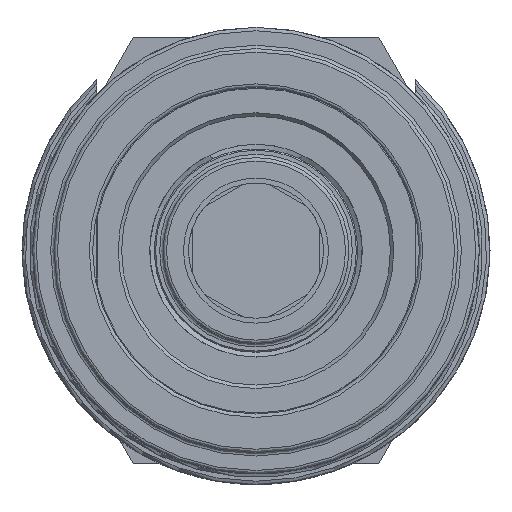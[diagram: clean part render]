
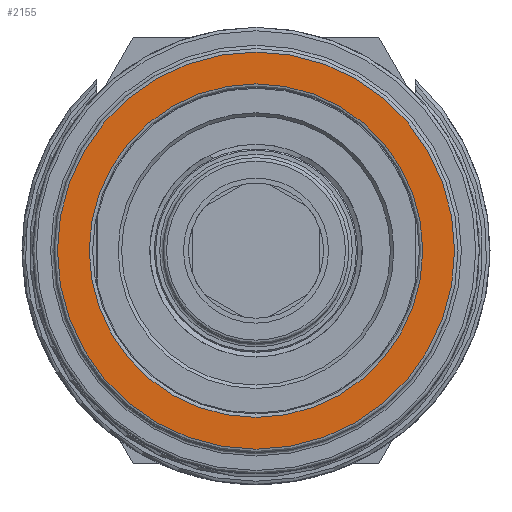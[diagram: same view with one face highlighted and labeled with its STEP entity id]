
A CAD part, front view. The second image highlights one B-rep face of the part: STEP entity #2155.
In plain terms, the highlighted planar face has unit normal (0, -1, 0).
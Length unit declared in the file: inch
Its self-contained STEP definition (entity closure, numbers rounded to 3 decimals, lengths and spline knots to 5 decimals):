
#46=FACE_BOUND('',#310,.T.);
#187=FACE_OUTER_BOUND('',#309,.T.);
#309=EDGE_LOOP('',(#1496,#1497));
#310=EDGE_LOOP('',(#1498,#1499));
#732=CIRCLE('',#2337,0.49);
#733=CIRCLE('',#2338,0.49);
#735=CIRCLE('',#2341,0.5835);
#736=CIRCLE('',#2342,0.5835);
#885=VERTEX_POINT('',#3398);
#886=VERTEX_POINT('',#3400);
#887=VERTEX_POINT('',#3405);
#888=VERTEX_POINT('',#3406);
#1124=EDGE_CURVE('',#885,#886,#732,.T.);
#1125=EDGE_CURVE('',#886,#885,#733,.T.);
#1127=EDGE_CURVE('',#887,#888,#735,.T.);
#1128=EDGE_CURVE('',#888,#887,#736,.T.);
#1496=ORIENTED_EDGE('',*,*,#1127,.F.);
#1497=ORIENTED_EDGE('',*,*,#1128,.F.);
#1498=ORIENTED_EDGE('',*,*,#1125,.F.);
#1499=ORIENTED_EDGE('',*,*,#1124,.F.);
#2083=PLANE('',#2340);
#2155=ADVANCED_FACE('',(#187,#46),#2083,.T.);
#2337=AXIS2_PLACEMENT_3D('',#3401,#2666,#2667);
#2338=AXIS2_PLACEMENT_3D('',#3402,#2668,#2669);
#2340=AXIS2_PLACEMENT_3D('',#3404,#2672,#2673);
#2341=AXIS2_PLACEMENT_3D('',#3407,#2674,#2675);
#2342=AXIS2_PLACEMENT_3D('',#3408,#2676,#2677);
#2666=DIRECTION('center_axis',(0.,-1.,0.));
#2667=DIRECTION('ref_axis',(0.,0.,1.));
#2668=DIRECTION('center_axis',(0.,-1.,0.));
#2669=DIRECTION('ref_axis',(0.,0.,1.));
#2672=DIRECTION('center_axis',(0.,-1.,0.));
#2673=DIRECTION('ref_axis',(0.,0.,-1.));
#2674=DIRECTION('center_axis',(0.,1.,0.));
#2675=DIRECTION('ref_axis',(0.,0.,1.));
#2676=DIRECTION('center_axis',(0.,1.,0.));
#2677=DIRECTION('ref_axis',(0.,0.,1.));
#3398=CARTESIAN_POINT('',(0.,0.,0.49));
#3400=CARTESIAN_POINT('',(0.,0.,-0.49));
#3401=CARTESIAN_POINT('Origin',(0.,0.,0.));
#3402=CARTESIAN_POINT('Origin',(0.,0.,0.));
#3404=CARTESIAN_POINT('Origin',(0.,0.,-0.48));
#3405=CARTESIAN_POINT('',(0.,0.,-0.5835));
#3406=CARTESIAN_POINT('',(0.,0.,0.5835));
#3407=CARTESIAN_POINT('Origin',(0.,0.,0.));
#3408=CARTESIAN_POINT('Origin',(0.,0.,0.));
